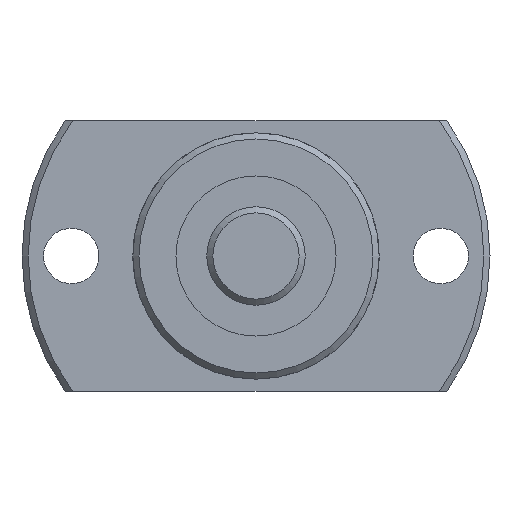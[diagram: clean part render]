
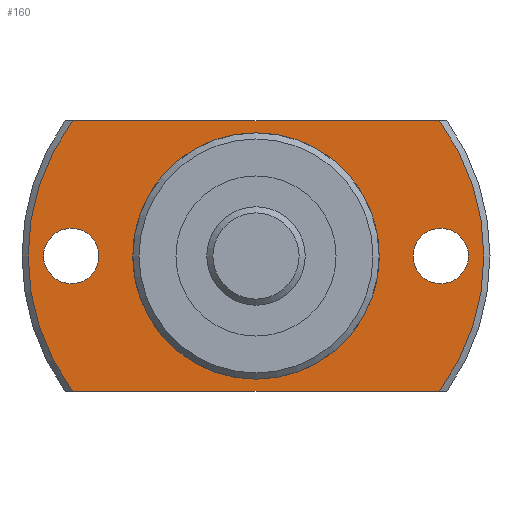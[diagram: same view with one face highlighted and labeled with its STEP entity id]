
A CAD part, left-side view. The second image highlights one B-rep face of the part: STEP entity #160.
In plain terms, the highlighted planar face has unit normal (-1, 0, 0).
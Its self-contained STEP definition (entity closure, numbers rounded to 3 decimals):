
#160 = ADVANCED_FACE( '', ( #353, #354, #355, #356 ), #357, .F. );
#353 = FACE_OUTER_BOUND( '', #617, .T. );
#354 = FACE_BOUND( '', #618, .T. );
#355 = FACE_BOUND( '', #619, .T. );
#356 = FACE_BOUND( '', #620, .T. );
#357 = PLANE( '', #621 );
#617 = EDGE_LOOP( '', ( #922, #923, #924, #925 ) );
#618 = EDGE_LOOP( '', ( #926 ) );
#619 = EDGE_LOOP( '', ( #927 ) );
#620 = EDGE_LOOP( '', ( #928 ) );
#621 = AXIS2_PLACEMENT_3D( '', #929, #930, #931 );
#922 = ORIENTED_EDGE( '', *, *, #1468, .F. );
#923 = ORIENTED_EDGE( '', *, *, #1469, .T. );
#924 = ORIENTED_EDGE( '', *, *, #1470, .F. );
#925 = ORIENTED_EDGE( '', *, *, #1471, .T. );
#926 = ORIENTED_EDGE( '', *, *, #1472, .T. );
#927 = ORIENTED_EDGE( '', *, *, #1473, .T. );
#928 = ORIENTED_EDGE( '', *, *, #1474, .T. );
#929 = CARTESIAN_POINT( '', ( 19., 9.85, 0. ) );
#930 = DIRECTION( '', ( 1., 0., 0. ) );
#931 = DIRECTION( '', ( 0., 0., -1. ) );
#1468 = EDGE_CURVE( '', #1726, #1727, #1728, .T. );
#1469 = EDGE_CURVE( '', #1726, #1729, #1730, .T. );
#1470 = EDGE_CURVE( '', #1731, #1729, #1732, .T. );
#1471 = EDGE_CURVE( '', #1731, #1727, #1733, .T. );
#1472 = EDGE_CURVE( '', #1734, #1734, #1735, .T. );
#1473 = EDGE_CURVE( '', #1736, #1736, #1737, .T. );
#1474 = EDGE_CURVE( '', #1738, #1738, #1739, .T. );
#1726 = VERTEX_POINT( '', #2088 );
#1727 = VERTEX_POINT( '', #2089 );
#1728 = CIRCLE( '', #2090, 18.5 );
#1729 = VERTEX_POINT( '', #2091 );
#1730 = LINE( '', #2092, #2093 );
#1731 = VERTEX_POINT( '', #2094 );
#1732 = CIRCLE( '', #2095, 18.5 );
#1733 = LINE( '', #2096, #2097 );
#1734 = VERTEX_POINT( '', #2098 );
#1735 = CIRCLE( '', #2099, 2.25 );
#1736 = VERTEX_POINT( '', #2100 );
#1737 = CIRCLE( '', #2101, 2.25 );
#1738 = VERTEX_POINT( '', #2102 );
#1739 = CIRCLE( '', #2103, 9.85 );
#2088 = CARTESIAN_POINT( '', ( 19., 14.874, -11. ) );
#2089 = CARTESIAN_POINT( '', ( 19., 14.874, 11. ) );
#2090 = AXIS2_PLACEMENT_3D( '', #2488, #2489, #2490 );
#2091 = CARTESIAN_POINT( '', ( 19., -14.874, -11. ) );
#2092 = CARTESIAN_POINT( '', ( 19., 9.85, -11. ) );
#2093 = VECTOR( '', #2491, 1000. );
#2094 = CARTESIAN_POINT( '', ( 19., -14.874, 11. ) );
#2095 = AXIS2_PLACEMENT_3D( '', #2492, #2493, #2494 );
#2096 = CARTESIAN_POINT( '', ( 19., 9.85, 11. ) );
#2097 = VECTOR( '', #2495, 1000. );
#2098 = CARTESIAN_POINT( '', ( 19., 15., -2.25 ) );
#2099 = AXIS2_PLACEMENT_3D( '', #2496, #2497, #2498 );
#2100 = CARTESIAN_POINT( '', ( 19., -15., -2.25 ) );
#2101 = AXIS2_PLACEMENT_3D( '', #2499, #2500, #2501 );
#2102 = CARTESIAN_POINT( '', ( 19., 0., -9.85 ) );
#2103 = AXIS2_PLACEMENT_3D( '', #2502, #2503, #2504 );
#2488 = CARTESIAN_POINT( '', ( 19., 0., 0. ) );
#2489 = DIRECTION( '', ( 1., 0., 0. ) );
#2490 = DIRECTION( '', ( 0., 0., -1. ) );
#2491 = DIRECTION( '', ( 0., -1., 0. ) );
#2492 = CARTESIAN_POINT( '', ( 19., 0., 0. ) );
#2493 = DIRECTION( '', ( 1., 0., 0. ) );
#2494 = DIRECTION( '', ( 0., 0., -1. ) );
#2495 = DIRECTION( '', ( 0., 1., 0. ) );
#2496 = CARTESIAN_POINT( '', ( 19., 15., 0. ) );
#2497 = DIRECTION( '', ( 1., 0., 0. ) );
#2498 = DIRECTION( '', ( 0., 0., -1. ) );
#2499 = CARTESIAN_POINT( '', ( 19., -15., 0. ) );
#2500 = DIRECTION( '', ( 1., 0., 0. ) );
#2501 = DIRECTION( '', ( 0., 0., -1. ) );
#2502 = CARTESIAN_POINT( '', ( 19., 0., 0. ) );
#2503 = DIRECTION( '', ( 1., 0., 0. ) );
#2504 = DIRECTION( '', ( 0., 0., -1. ) );
